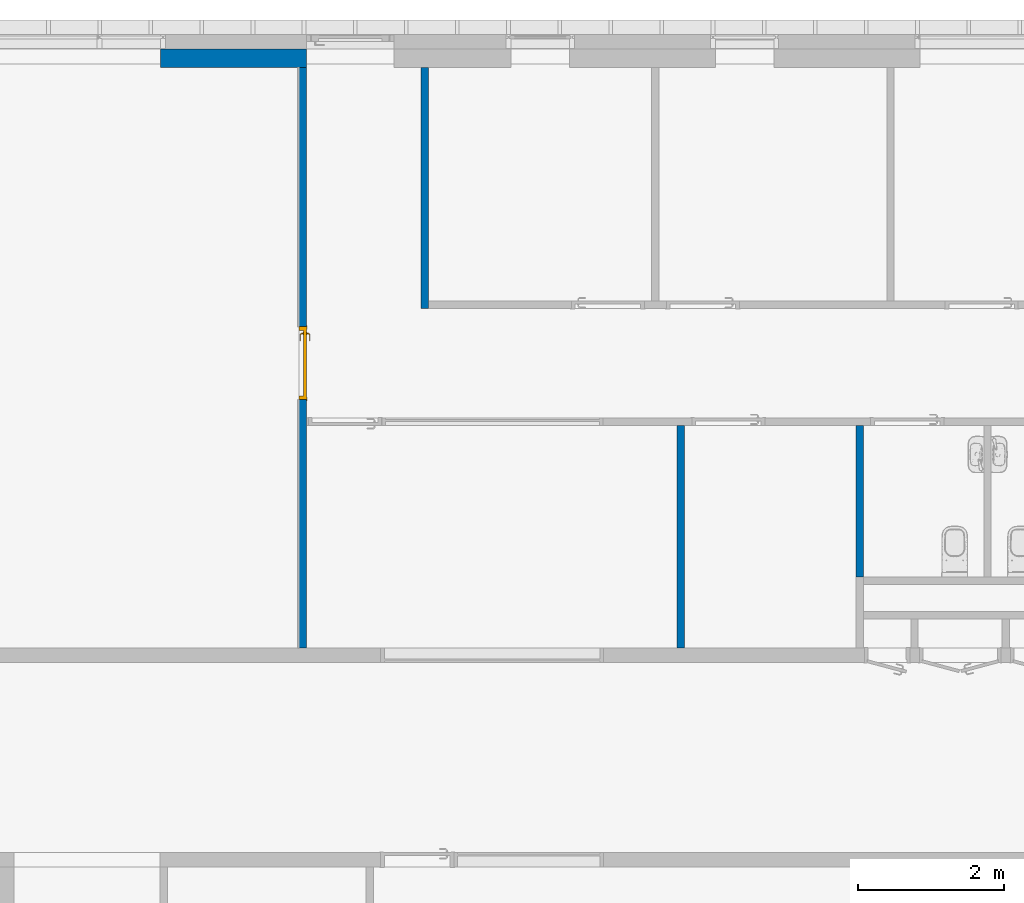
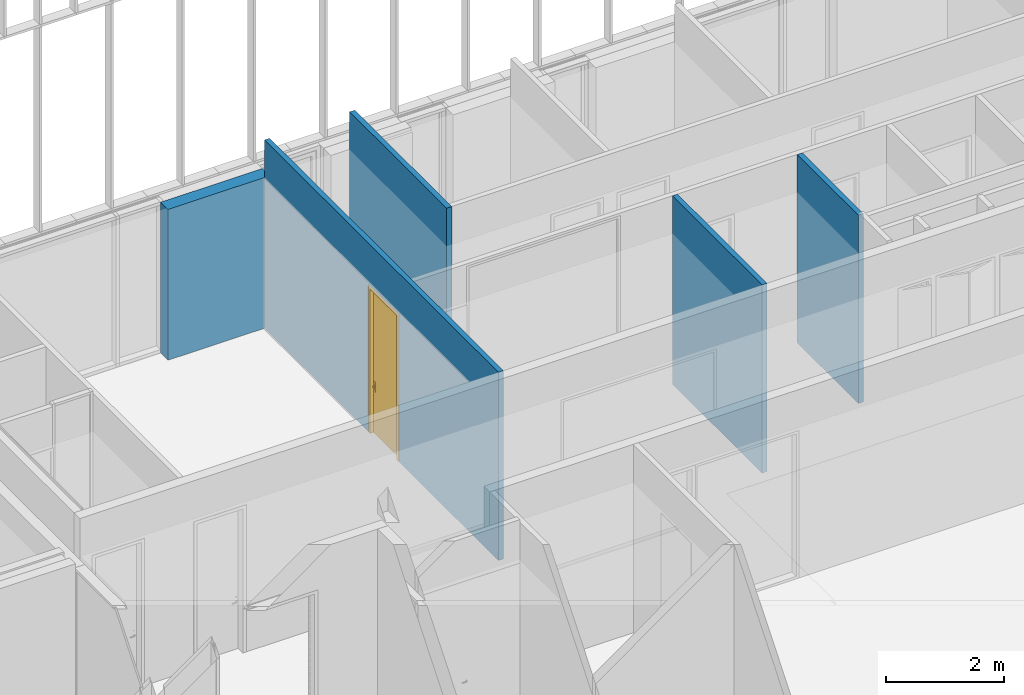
# One storey, part 138 of 240: 5 walls, 1 door, 1 opening.
"""IFC2X3 building model written with IfcOpenShell, lengths in centimetres."""

import ifcopenshell
import ifcopenshell.guid

model = None  # the IFC model being written
_history = None  # IfcOwnerHistory: only IFC2X3 demands one
_inside = {}  # id of a spatial element -> (the spatial element, [elements in it])
_under = {}  # id of a project, library or spatial element -> (it, [spatial elements below it])
_declared = {}  # id of a project -> (the project, [libraries it declares])
_typed = {}  # id of a type object -> (the type object, [elements of that type])
_made_of = {}  # id of a material, layer set ... -> (it, [elements and type objects made of it])


def new_model(schema):
    """Start an empty IFC model of exactly this schema.

    Asked for "IFC4X3", IfcOpenShell would pick the latest addendum, in which some entities
    have other attributes; the version numbers below select the first issue.
    IFC2X3 requires an IfcOwnerHistory on every rooted entity: one is made here for all.
    """
    global model, _history
    if schema == "IFC4X3":
        model = ifcopenshell.file(schema_version=(4, 3, 0, 0))
    else:
        model = ifcopenshell.file(schema=schema)
    _inside.clear()
    _under.clear()
    _declared.clear()
    _typed.clear()
    _made_of.clear()
    _history = None
    if model.schema == "IFC2X3":
        org = make("IfcOrganization", Name="unknown")
        user = make(
            "IfcPersonAndOrganization",
            ThePerson=make("IfcPerson", FamilyName="unknown"),
            TheOrganization=org,
        )
        app = make(
            "IfcApplication",
            ApplicationDeveloper=org,
            Version="unknown",
            ApplicationFullName="unknown",
            ApplicationIdentifier="unknown",
        )
        _history = make(
            "IfcOwnerHistory",
            OwningUser=user,
            OwningApplication=app,
            ChangeAction="ADDED",
            CreationDate=0,
        )
    return model


def make(cls, **values):
    """One entity of the class cls with the attributes given. An attribute that is None is left unset."""
    return model.create_entity(
        cls, **{name: value for name, value in values.items() if value is not None}
    )


def entity(cls, *values):
    """Any entity or typed value of the class cls, its attributes in the order of the schema. None: left unset."""
    e = model.create_entity(cls)
    for i, value in enumerate(values):
        if value is not None:
            e[i] = value
    return e


def rooted(cls, **values):
    """An entity with a GlobalId (a new one), such as an element, a storey or a relation."""
    return make(cls, GlobalId=ifcopenshell.guid.new(), OwnerHistory=_history, **values)


def si_unit(unit_type, name, prefix=None):
    """IfcSIUnit, for example si_unit("LENGTHUNIT", "METRE", prefix="MILLI")."""
    return make("IfcSIUnit", UnitType=unit_type, Prefix=prefix, Name=name)


def converted_unit(unit_type, name, factor, base, dimensions=None, offset=None):
    """IfcConversionBasedUnit, such as the inch: factor (a typed value) times the base unit."""
    return make(
        "IfcConversionBasedUnit"
        if offset is None
        else "IfcConversionBasedUnitWithOffset",
        ConversionOffset=offset,
        Dimensions=None
        if dimensions is None
        else entity("IfcDimensionalExponents", *dimensions),
        UnitType=unit_type,
        Name=name,
        ConversionFactor=make(
            "IfcMeasureWithUnit", ValueComponent=factor, UnitComponent=base
        ),
    )


def derived_unit(unit_type, elements):
    """IfcDerivedUnit: a product of units, each with its exponent."""
    return make(
        "IfcDerivedUnit",
        Elements=[
            make("IfcDerivedUnitElement", Unit=unit, Exponent=power)
            for unit, power in elements
        ],
        UnitType=unit_type,
    )


def assignment(units):
    """IfcUnitAssignment: the units of a project."""
    return None if units is None else make("IfcUnitAssignment", Units=units)


def point(xyz):
    """IfcCartesianPoint."""
    return None if xyz is None else make("IfcCartesianPoint", Coordinates=xyz)


def direction(xyz):
    """IfcDirection."""
    return None if xyz is None else make("IfcDirection", DirectionRatios=xyz)


def frame(location, z_axis=None, x_axis=None):
    """IfcAxis2Placement3D, a coordinate frame: its origin and axes. An axis left out is left unset."""
    return make(
        "IfcAxis2Placement3D",
        Location=point(location),
        Axis=direction(z_axis),
        RefDirection=direction(x_axis),
    )


def frame_2d(location, x_axis=None):
    """IfcAxis2Placement2D, a coordinate frame in the plane: its origin and x axis."""
    return make(
        "IfcAxis2Placement2D", Location=point(location), RefDirection=direction(x_axis)
    )


def origin():
    """The frame at (0, 0, 0) with its axes left unset."""
    return frame((0.0, 0.0, 0.0))


def place(relative_to, where):
    """IfcLocalPlacement: puts the frame where relative to a parent placement (None: the world)."""
    return make(
        "IfcLocalPlacement", PlacementRelTo=relative_to, RelativePlacement=where
    )


def context(
    kind, dimensions, precision=None, world=None, true_north=None, identifier=None
):
    """IfcGeometricRepresentationContext, for example the 3D "Model" context."""
    return make(
        "IfcGeometricRepresentationContext",
        ContextIdentifier=identifier,
        ContextType=kind,
        CoordinateSpaceDimension=dimensions,
        Precision=precision,
        WorldCoordinateSystem=world,
        TrueNorth=true_north,
    )


def subcontext(parent, identifier, kind, view, scale=None):
    """IfcGeometricRepresentationSubContext, for example "Body" below "Model"."""
    return make(
        "IfcGeometricRepresentationSubContext",
        ContextIdentifier=identifier,
        ContextType=kind,
        ParentContext=parent,
        TargetScale=scale,
        TargetView=view,
    )


def project(units=None, contexts=None):
    """IfcProject with its units and contexts."""
    return rooted(
        "IfcProject",
        Name="project",
        RepresentationContexts=contexts,
        UnitsInContext=assignment(units),
    )


def spatial(cls, under=None, at=None, **own):
    """A site, building, storey or space (cls), placed at a placement, below another one or the project."""
    s = rooted(cls, ObjectPlacement=at, **own)
    if under is not None:
        _under.setdefault(under.id(), (under, []))[1].append(s)
    return s


def polyline(points):
    """IfcPolyline through the points."""
    return make("IfcPolyline", Points=[point(p) for p in points])


def profile(cls, at=None, kind="AREA", **sizes):
    """A parametric profile (cls). Its sizes go by their IFC names, for example OverallWidth=200.0."""
    return make(cls, ProfileType=kind, Position=at, **sizes)


def rectangle(**sizes):
    """IfcRectangleProfileDef."""
    return profile("IfcRectangleProfileDef", **sizes)


def extrude(swept, where, along, depth):
    """IfcExtrudedAreaSolid: the profile swept, set in the frame where, extruded along a direction by depth."""
    return make(
        "IfcExtrudedAreaSolid",
        SweptArea=swept,
        Position=where,
        ExtrudedDirection=direction(along),
        Depth=depth,
    )


def clip(a, b, op="DIFFERENCE"):
    """IfcBooleanClippingResult: the solid a cut by the half space b."""
    return make(
        "IfcBooleanClippingResult", Operator=op, FirstOperand=a, SecondOperand=b
    )


def bounded_halfspace(plane, agree, where, boundary):
    """IfcPolygonalBoundedHalfSpace: a half space limited to a polygon's prism."""
    return make(
        "IfcPolygonalBoundedHalfSpace",
        BaseSurface=make("IfcPlane", Position=plane),
        AgreementFlag=agree,
        Position=where,
        PolygonalBoundary=boundary,
    )


def faces_of(points, faces, orient=None, outer=None):
    """IfcFace entities. A face is a list of loops; a loop is a list of indices into points, from 0.

    orient and outer hold one flag for each loop. By default every Orientation is true, the
    first loop of a face is its IfcFaceOuterBound and the others are IfcFaceBound.
    """
    made = []
    for i, loops in enumerate(faces):
        bounds = []
        for j, loop in enumerate(loops):
            is_outer = j == 0 if outer is None else outer[i][j]
            bounds.append(
                make(
                    "IfcFaceOuterBound" if is_outer else "IfcFaceBound",
                    Bound=make("IfcPolyLoop", Polygon=[points[k] for k in loop]),
                    Orientation=True if orient is None else orient[i][j],
                )
            )
        made.append(make("IfcFace", Bounds=bounds))
    return made


def faceted_brep(points, faces, orient=None, outer=None, voids=None):
    """IfcFacetedBrep: a solid bounded by flat faces; with voids (closed shells), ...WithVoids."""
    shared = [point(p) for p in points]
    hull = make("IfcClosedShell", CfsFaces=faces_of(shared, faces, orient, outer))
    if voids is None:
        return make("IfcFacetedBrep", Outer=hull)
    return make(
        "IfcFacetedBrepWithVoids",
        Outer=hull,
        Voids=[
            make(cls, CfsFaces=faces_of(shared, fs, o, b)) for cls, fs, o, b in voids
        ],
    )


def shape(context_of_items, identifier, shape_type, items):
    """IfcShapeRepresentation: the items that make up one representation, for example the "Body"."""
    return make(
        "IfcShapeRepresentation",
        ContextOfItems=context_of_items,
        RepresentationIdentifier=identifier,
        RepresentationType=shape_type,
        Items=items,
    )


def source(mapping_origin, context_of_items, identifier, shape_type, items):
    """IfcRepresentationMap: a shape defined once, which mapped items show again and again."""
    return make(
        "IfcRepresentationMap",
        MappingOrigin=mapping_origin,
        MappedRepresentation=shape(context_of_items, identifier, shape_type, items),
    )


def transform(
    local_origin,
    x_axis=None,
    y_axis=None,
    z_axis=None,
    scale=None,
    scale2=None,
    scale3=None,
    uniform=True,
):
    """IfcCartesianTransformationOperator3D, or its non-uniform kind. x_axis, y_axis, z_axis: its Axis1, 2, 3."""
    if uniform:
        return make(
            "IfcCartesianTransformationOperator3D",
            Axis1=direction(x_axis),
            Axis2=direction(y_axis),
            LocalOrigin=point(local_origin),
            Scale=scale,
            Axis3=direction(z_axis),
        )
    return make(
        "IfcCartesianTransformationOperator3DnonUniform",
        Axis1=direction(x_axis),
        Axis2=direction(y_axis),
        LocalOrigin=point(local_origin),
        Scale=scale,
        Axis3=direction(z_axis),
        Scale2=scale2,
        Scale3=scale3,
    )


def mapped(mapping_source, mapping_target):
    """IfcMappedItem: shows the shape of a source again, moved by a transform."""
    return make(
        "IfcMappedItem", MappingSource=mapping_source, MappingTarget=mapping_target
    )


def material(Name=None, Category=None):
    """IfcMaterial."""
    return make("IfcMaterial", Name=Name, Category=Category)


def material_list(materials):
    """IfcMaterialList."""
    return make("IfcMaterialList", Materials=materials)


def layer(
    of_material, thickness, ventilated=None, Name=None, Category=None, Priority=None
):
    """IfcMaterialLayer: one layer of a wall or slab, of a material (None: an air gap)."""
    return make(
        "IfcMaterialLayer",
        Material=of_material,
        LayerThickness=thickness,
        IsVentilated=ventilated,
        Name=Name,
        Category=Category,
        Priority=Priority,
    )


def layer_set(layers, Name=None):
    """IfcMaterialLayerSet."""
    return make("IfcMaterialLayerSet", MaterialLayers=layers, LayerSetName=Name)


def layer_usage(for_layer_set, set_direction, sense, offset, extent=None):
    """IfcMaterialLayerSetUsage: how a layer set lies in its element."""
    return make(
        "IfcMaterialLayerSetUsage",
        ForLayerSet=for_layer_set,
        LayerSetDirection=set_direction,
        DirectionSense=sense,
        OffsetFromReferenceLine=offset,
        ReferenceExtent=extent,
    )


def made_of(thing, what):
    """Note that an element or type object is made of a material, layer set ...; save() writes the relation."""
    if what is not None:
        _made_of.setdefault(what.id(), (what, []))[1].append(thing)
    return thing


def type_object(cls, material=None, **own):
    """A type object (cls), such as IfcWallType, which elements share."""
    return made_of(rooted(cls, **own), material)


def type_shapes(of_type, sources):
    """Give a type object the sources (RepresentationMaps) that its elements show as mapped items."""
    of_type.RepresentationMaps = sources


def element(
    cls,
    number,
    at=None,
    inside=None,
    cuts=None,
    type_object=None,
    material=None,
    context=None,
    identifier="Body",
    shape_type=None,
    held_by="IfcProductDefinitionShape",
    body=None,
    shapes=None,
    **own,
):
    """One element of the class cls, such as IfcWall. Its Tag is "e" and its number.

    at: its placement. inside: the storey or other place that contains it. cuts: it is an
    opening in that element (IfcRelVoidsElement). A single representation is given by context,
    identifier, shape_type and body (its items); several are given by shapes. held_by: the class
    of the entity that holds the representations. save() writes the other relations.
    """
    e = rooted(cls, Tag="e%d" % number, ObjectPlacement=at, **own)
    if body is not None:
        shapes = [shape(context, identifier, shape_type, body)]
    if shapes is not None:
        e.Representation = make(held_by, Representations=shapes)
    if inside is not None:
        _inside.setdefault(inside.id(), (inside, []))[1].append(e)
    if cuts is not None:
        rooted(
            "IfcRelVoidsElement", RelatingBuildingElement=cuts, RelatedOpeningElement=e
        )
    if type_object is not None:
        _typed.setdefault(type_object.id(), (type_object, []))[1].append(e)
    return made_of(e, material)


def fill(opening, filler):
    """IfcRelFillsElement: the door or window that sits in an opening."""
    return rooted(
        "IfcRelFillsElement",
        RelatingOpeningElement=opening,
        RelatedBuildingElement=filler,
    )


def aggregate(whole, parts):
    """IfcRelAggregates: a whole, such as a stair, and the parts it consists of."""
    return rooted("IfcRelAggregates", RelatingObject=whole, RelatedObjects=parts)


def save(model, path):
    """Write the relations noted so far, then the file.

    IfcRelAggregates (storeys below a building ...), IfcRelContainedInSpatialStructure (elements
    in a storey), IfcRelDefinesByType, IfcRelAssociatesMaterial and IfcRelDeclares: one each for
    every whole, place, type object, material and project.
    """
    for whole, parts in _under.values():
        aggregate(whole, parts)
    for where, things in _inside.values():
        rooted(
            "IfcRelContainedInSpatialStructure",
            RelatedElements=things,
            RelatingStructure=where,
        )
    for kind, things in _typed.values():
        rooted("IfcRelDefinesByType", RelatedObjects=things, RelatingType=kind)
    for what, things in _made_of.values():
        rooted("IfcRelAssociatesMaterial", RelatedObjects=things, RelatingMaterial=what)
    for by, libraries in _declared.values():
        rooted("IfcRelDeclares", RelatingContext=by, RelatedDefinitions=libraries)
    model.write(path)


model = new_model("IFC2X3")

# Units and contexts
model_context = context("Model", 3, precision=0.001, world=origin(), true_north=direction((6.12303176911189e-17, 1.0)))
body_context = subcontext(model_context, "Body", "Model", "MODEL_VIEW")
ifc_project = project(units=[si_unit("LENGTHUNIT", "METRE", prefix="CENTI"), si_unit("AREAUNIT", "SQUARE_METRE"), si_unit("VOLUMEUNIT", "CUBIC_METRE"), converted_unit("PLANEANGLEUNIT", "DEGREE", entity("IfcRatioMeasure", 0.0174532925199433), si_unit("PLANEANGLEUNIT", "RADIAN"), dimensions=[0, 0, 0, 0, 0, 0, 0]), si_unit("MASSUNIT", "GRAM", prefix="KILO"), derived_unit("MASSDENSITYUNIT", [(si_unit("MASSUNIT", "GRAM", prefix="KILO"), 1), (si_unit("LENGTHUNIT", "METRE"), -3)]), si_unit("TIMEUNIT", "SECOND"), si_unit("FREQUENCYUNIT", "HERTZ"), si_unit("THERMODYNAMICTEMPERATUREUNIT", "DEGREE_CELSIUS"), derived_unit("THERMALTRANSMITTANCEUNIT", [(si_unit("MASSUNIT", "GRAM", prefix="KILO"), 1), (si_unit("THERMODYNAMICTEMPERATUREUNIT", "KELVIN"), -1), (si_unit("TIMEUNIT", "SECOND"), -3)]), derived_unit("VOLUMETRICFLOWRATEUNIT", [(si_unit("LENGTHUNIT", "METRE"), 3), (si_unit("TIMEUNIT", "SECOND"), -1)]), si_unit("ELECTRICCURRENTUNIT", "AMPERE"), si_unit("ELECTRICVOLTAGEUNIT", "VOLT"), si_unit("POWERUNIT", "WATT"), si_unit("FORCEUNIT", "NEWTON", prefix="KILO"), si_unit("ILLUMINANCEUNIT", "LUX"), si_unit("LUMINOUSFLUXUNIT", "LUMEN"), si_unit("LUMINOUSINTENSITYUNIT", "CANDELA"), derived_unit("USERDEFINED", [(si_unit("MASSUNIT", "GRAM", prefix="KILO"), -1), (si_unit("LENGTHUNIT", "METRE"), -2), (si_unit("TIMEUNIT", "SECOND"), 3), (si_unit("LUMINOUSFLUXUNIT", "LUMEN"), 1)]), derived_unit("LINEARVELOCITYUNIT", [(si_unit("LENGTHUNIT", "METRE"), 1), (si_unit("TIMEUNIT", "SECOND"), -1)]), si_unit("PRESSUREUNIT", "PASCAL"), derived_unit("USERDEFINED", [(si_unit("LENGTHUNIT", "METRE"), -2), (si_unit("MASSUNIT", "GRAM", prefix="KILO"), 1), (si_unit("TIMEUNIT", "SECOND"), -2)])], contexts=[model_context])

# Site, building, storey
site_placement = place(None, frame((-2781.94577612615, 7442.24238424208, 0.0)))
site = spatial("IfcSite", under=ifc_project, at=site_placement, Name="Default", CompositionType="ELEMENT")
building_placement = place(site_placement, origin())
building = spatial("IfcBuilding", under=site, at=building_placement, CompositionType="ELEMENT")
storey_placement = place(building_placement, origin())
storey = spatial("IfcBuildingStorey", under=building, at=storey_placement, Name="N00 - COO", CompositionType="ELEMENT", Elevation=0.0)

# Walls
ifc_material_1 = material(Name="01 - Maçonnerie")
ifc_layer_1 = layer(ifc_material_1, 25.0)
ifc_layer_set_1 = layer_set([ifc_layer_1], Name="Mur de base:04 - Structure - béton - 25cm")
ifc_layer_usage_1 = layer_usage(ifc_layer_set_1, "AXIS2", "NEGATIVE", 12.5)
wall_type_1 = type_object("IfcWallType", Name="Mur de base:04 - Structure - béton - 25cm", PredefinedType="STANDARD", material=ifc_layer_set_1)
wall_1_placement = place(building_placement, frame((-7566.24987760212, -2.49999999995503, 0.0), z_axis=(0.0, 0.0, 1.0), x_axis=(-1.0, 0.0, 0.0)))
element("IfcWallStandardCase", 1, at=wall_1_placement, inside=storey, type_object=wall_type_1, material=ifc_layer_usage_1, Name="Mur de base:04 - Structure - béton - 25cm", ObjectType="Mur de base:04 - Structure - béton - 25cm", context=body_context, shape_type="SweptSolid", body=[
    extrude(rectangle(XDim=199.750000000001, YDim=25.0, at=frame_2d((99.8750000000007, 8.88178419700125e-16), x_axis=(-1.0, 0.0))), origin(), (0.0, 0.0, 1.0), 313.0),
])
ifc_material_2 = material(Name="01 - Enduit/Plâtre")
ifc_layer_2 = layer(ifc_material_2, 1.3)
ifc_material_3 = material(Name="00 - Isolant")
ifc_layer_3 = layer(ifc_material_3, 7.4)
ifc_layer_4 = layer(ifc_material_2, 1.3)
ifc_layer_set_2 = layer_set([ifc_layer_2, ifc_layer_3, ifc_layer_4], Name="Mur de base:06 - cloisons - Ba13 10cm")
ifc_layer_usage_2 = layer_usage(ifc_layer_set_2, "AXIS2", "NEGATIVE", 5.0)
wall_type_2 = type_object("IfcWallType", Name="Mur de base:06 - cloisons - Ba13 10cm", PredefinedType="STANDARD", material=ifc_layer_set_2)
wall_2_placement = place(building_placement, frame((-7404.24987760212, -345.0, 0.0), z_axis=(0.0, 0.0, 1.0), x_axis=(0.0, 1.0, 0.0)))
element("IfcWallStandardCase", 2, at=wall_2_placement, inside=storey, type_object=wall_type_2, material=ifc_layer_usage_2, Name="Mur de base:06 - cloisons - Ba13 10cm", ObjectType="Mur de base:06 - cloisons - Ba13 10cm", context=body_context, shape_type="Clipping", body=[
    clip(extrude(rectangle(XDim=330.0, YDim=9.99999999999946, at=frame_2d((165.0, 2.08721928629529e-14), x_axis=(-1.0, 0.0))), origin(), (0.0, 0.0, 1.0), 391.0), bounded_halfspace(frame((0.0, -5.0, 391.0), z_axis=(0.0, 0.0, -1.0), x_axis=(1.0, 0.0, 0.0)), True, frame((0.0, -5.0, 391.0)), polyline([(0.0, 0.0), (10.0, 0.0), (330.0, 0.0), (330.0, 10.0), (0.0, 10.0), (0.0, 0.0)]))),
])

# Wall, opening, door
ifc_layer_usage_3 = layer_usage(ifc_layer_set_2, "AXIS2", "NEGATIVE", 5.0)
wall_3_placement = place(building_placement, frame((-7571.24987760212, -15.0, 0.0), z_axis=(0.0, 0.0, 1.0), x_axis=(0.0, -1.0, 0.0)))
wall_3 = element("IfcWallStandardCase", 3, at=wall_3_placement, inside=storey, type_object=wall_type_2, material=ifc_layer_usage_3, Name="Mur de base:06 - cloisons - Ba13 10cm", ObjectType="Mur de base:06 - cloisons - Ba13 10cm", context=body_context, shape_type="Clipping", body=[
    clip(extrude(rectangle(XDim=795.048500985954, YDim=9.99999999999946, at=frame_2d((397.524250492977, -3.5527136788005e-15), x_axis=(-1.0, 0.0))), origin(), (0.0, 0.0, 1.0), 391.0), bounded_halfspace(frame((0.0, -5.0, 391.0), z_axis=(0.0, 0.0, -1.0), x_axis=(-1.0, 0.0, 0.0)), True, frame((0.0, -5.0, 391.0)), polyline([(0.0, 0.0), (795.048500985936, 0.0), (795.048500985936, 10.0), (490.0, 10.0), (480.0, 10.0), (0.0, 10.0), (0.0, 0.0)]))),
])
opening_placement = place(wall_3_placement, frame((355.0, -5.0, 0.0)))
opening = element("IfcOpeningElement", 4, at=opening_placement, cuts=wall_3, Name="Int. Simple:PV (0.93m x 3.00m):1", ObjectType="Opening", context=body_context, shape_type="SweptSolid", body=[
    extrude(rectangle(XDim=304.500000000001, YDim=99.9999999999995, at=frame_2d((152.250000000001, 49.9999999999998), x_axis=(1.0, 0.0))), frame((0.0, 0.0, 0.0), z_axis=(0.0, 1.0, 0.0), x_axis=(0.0, 0.0, 1.0)), (0.0, 0.0, 1.0), 10.0),
])
ifc_material_4 = material(Name="Finition Peinture - Blanc satiné")
ifc_material_5 = material(Name="Bois - Panneau de porte")
ifc_material_6 = material(Name="Bois - Cadre de porte")
ifc_material_list_1 = material_list([ifc_material_4, ifc_material_5, ifc_material_6])
ifc_material_list_2 = material_list([ifc_material_4, ifc_material_5, ifc_material_6])
door_style = type_object("IfcDoorStyle", Name="PV (0.93m x 3.00m)", ConstructionType="NOTDEFINED", OperationType="SINGLE_SWING_RIGHT", ParameterTakesPrecedence=False, Sizeable=False, material=ifc_material_list_2)
shared_shape = source(origin(), body_context, "Body", "Brep", [
    faceted_brep([(99.5000000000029, -0.500000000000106, 87.0), (99.5000000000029, -0.500000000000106, 108.0), (98.535276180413, -0.500000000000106, 108.399601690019), (97.5000000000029, -0.500000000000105, 108.535898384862), (96.4647238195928, -0.500000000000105, 108.399601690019), (95.500000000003, -0.500000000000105, 108.0), (95.5000000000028, -0.500000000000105, 87.0), (96.4647238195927, -0.500000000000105, 86.6003983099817), (97.5000000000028, -0.500000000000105, 86.464101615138), (98.5352761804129, -0.500000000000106, 86.6003983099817), (99.5000000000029, 0.0, 108.0), (99.5000000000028, 0.0, 87.0), (98.5352761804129, 0.0, 86.6003983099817), (97.5000000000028, 0.0, 86.464101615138), (96.4647238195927, 0.0, 86.6003983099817), (95.5000000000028, 0.0, 87.0), (95.5000000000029, 0.0, 108.0), (96.4647238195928, 0.0, 108.399601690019), (97.5000000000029, 0.0, 108.535898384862), (98.535276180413, 0.0, 108.399601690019)], [[[0, 1, 2, 3, 4, 5, 6, 7, 8, 9]], [[10, 11, 12, 13, 14, 15, 16, 17, 18, 19]], [[9, 12, 11, 0]], [[8, 13, 12, 9]], [[7, 14, 13, 8]], [[7, 6, 15, 14]], [[15, 6, 5, 16]], [[4, 17, 16, 5]], [[3, 18, 17, 4]], [[2, 19, 18, 3]], [[2, 1, 10, 19]], [[11, 10, 1, 0]]]),
    faceted_brep([(99.5000000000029, 4.0, 87.0), (99.5000000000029, 4.0, 108.0), (98.535276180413, 4.0, 108.399601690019), (97.5000000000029, 4.0, 108.535898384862), (96.4647238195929, 4.0, 108.399601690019), (95.500000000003, 4.0, 108.0), (95.5000000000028, 4.0, 87.0), (96.4647238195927, 4.0, 86.6003983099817), (97.5000000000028, 4.0, 86.464101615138), (98.5352761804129, 4.0, 86.6003983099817), (97.5000000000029, 4.49999999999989, 108.535898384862), (98.535276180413, 4.49999999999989, 108.399601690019), (99.5000000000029, 4.49999999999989, 108.0), (99.5000000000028, 4.49999999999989, 87.0), (98.5352761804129, 4.49999999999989, 86.6003983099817), (97.5000000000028, 4.49999999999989, 86.464101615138), (96.4647238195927, 4.49999999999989, 86.6003983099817), (95.5000000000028, 4.49999999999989, 87.0), (95.500000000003, 4.49999999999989, 108.0), (96.4647238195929, 4.49999999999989, 108.399601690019)], [[[0, 1, 2, 3, 4, 5, 6, 7, 8, 9]], [[10, 11, 12, 13, 14, 15, 16, 17, 18, 19]], [[4, 19, 18, 5]], [[3, 10, 19, 4]], [[2, 11, 10, 3]], [[2, 1, 12, 11]], [[13, 12, 1, 0]], [[9, 14, 13, 0]], [[8, 15, 14, 9]], [[7, 16, 15, 8]], [[7, 6, 17, 16]], [[17, 6, 5, 18]]]),
    faceted_brep([(97.2974701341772, -0.50000000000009, 100.778044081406), (97.7025298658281, -0.500000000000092, 100.778044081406), (98.1000000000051, -0.500000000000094, 100.699999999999), (98.100000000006, -0.500000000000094, 99.2999999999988), (97.7025298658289, -0.500000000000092, 99.221955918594), (97.297470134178, -0.50000000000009, 99.2219559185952), (96.9000000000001, -0.500000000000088, 99.3000000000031), (96.9000000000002, -0.500000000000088, 100.7), (97.7025298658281, -3.10045754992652, 100.778044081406), (98.1000000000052, -3.26509507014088, 100.7), (97.2974701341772, -2.93267631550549, 100.778044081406), (95.9298602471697, -4.30028620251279, 100.778044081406), (96.0976414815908, -4.70534593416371, 100.778044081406), (96.9000000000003, -2.76803879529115, 100.7), (96.9000000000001, -2.76803879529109, 99.3000000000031), (97.297470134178, -2.93267631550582, 99.2219559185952), (97.7025298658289, -3.10045754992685, 99.221955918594), (96.0976414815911, -4.70534593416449, 99.221955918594), (95.9298602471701, -4.30028620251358, 99.2219559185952), (98.100000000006, -3.26509507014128, 99.2999999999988), (96.2622790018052, -5.10281606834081, 100.7), (95.7652227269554, -3.90281606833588, 100.7), (95.7652227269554, -3.90281606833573, 99.3000000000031), (96.2622790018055, -5.10281606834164, 99.2999999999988), (87.4981359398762, -5.10281606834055, 100.7), (87.4981359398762, -4.70534593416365, 100.778044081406), (87.4981359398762, -4.30028620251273, 100.778044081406), (87.4981359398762, -3.90281606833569, 100.699999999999), (87.4981359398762, -3.90281606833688, 99.3000000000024), (87.4981359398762, -4.30028620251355, 99.2219559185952), (87.4981359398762, -4.70534593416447, 99.221955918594), (87.4981359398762, -5.10281606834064, 99.2999999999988), (91.7139980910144, -4.5028160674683, 100.78786867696), (92.2692302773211, -5.1028160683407, 100.7), (91.6316793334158, -3.9028160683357, 100.7), (91.631679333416, -3.9028160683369, 99.3000000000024), (91.7139981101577, -4.50281607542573, 99.2121313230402), (92.2692310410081, -5.10281606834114, 99.2999999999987)], [[[0, 1, 2, 3, 4, 5, 6, 7]], [[2, 1, 8, 9]], [[1, 0, 10, 11, 12, 8]], [[0, 7, 13, 10]], [[14, 13, 7, 6]], [[5, 15, 14, 6]], [[5, 4, 16, 17, 18, 15]], [[3, 19, 16, 4]], [[9, 19, 3, 2]], [[9, 8, 12, 20]], [[10, 13, 21, 11]], [[22, 21, 13, 14]], [[14, 15, 18, 22]], [[16, 19, 23, 17]], [[20, 23, 19, 9]], [[24, 25, 26, 27, 28, 29, 30, 31]], [[32, 25, 33]], [[33, 25, 24]], [[33, 20, 12]], [[11, 34, 32]], [[34, 11, 21]], [[27, 26, 34]], [[32, 26, 25]], [[32, 34, 26]], [[32, 33, 12]], [[11, 32, 12]], [[21, 22, 35, 28, 27, 34]], [[36, 29, 35]], [[30, 36, 37]], [[18, 35, 22]], [[29, 28, 35]], [[30, 37, 31]], [[37, 17, 23]], [[36, 17, 37]], [[36, 18, 17]], [[36, 35, 18]], [[29, 36, 30]], [[23, 20, 33, 24, 31, 37]]]),
    faceted_brep([(97.2974701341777, 4.49999999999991, 99.2219559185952), (97.7025298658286, 4.49999999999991, 99.221955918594), (98.1000000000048, 4.4999999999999, 99.2999999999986), (98.1000000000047, 4.4999999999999, 100.7), (97.7025298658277, 4.49999999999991, 100.778044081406), (97.2974701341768, 4.49999999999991, 100.778044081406), (96.8999999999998, 4.49999999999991, 100.7), (96.900000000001, 4.49999999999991, 99.3000000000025), (96.8999999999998, 6.7485204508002, 100.7), (96.8999999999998, 6.74852045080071, 99.3000000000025), (97.2974701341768, 6.91315797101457, 100.778044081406), (97.7025298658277, 7.0809392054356, 100.778044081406), (96.0838906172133, 8.69957845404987, 100.778044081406), (95.9161093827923, 8.29451872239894, 100.778044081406), (98.1000000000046, 7.24557672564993, 100.7), (98.1000000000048, 7.24557672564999, 99.2999999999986), (97.7025298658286, 7.08093920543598, 99.221955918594), (97.2974701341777, 6.91315797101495, 99.2219559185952), (95.9161093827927, 8.29451872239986, 99.2219559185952), (96.0838906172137, 8.69957845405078, 99.221955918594), (95.751471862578, 7.89704858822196, 100.7), (95.7514718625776, 7.89704858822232, 99.3000000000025), (96.2485281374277, 9.09704858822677, 100.7), (96.2485281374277, 9.09704858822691, 99.2999999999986), (87.4954216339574, 8.29451872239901, 100.778044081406), (87.4954216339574, 8.69957845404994, 100.778044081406), (87.4954216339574, 9.09704858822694, 100.7), (87.4954216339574, 9.09704858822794, 99.2999999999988), (87.4954216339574, 8.6995784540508, 99.221955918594), (87.4954216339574, 8.29451872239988, 99.2219559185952), (87.4954216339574, 7.89704858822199, 99.3000000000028), (87.4954216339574, 7.89704858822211, 100.7), (91.6234467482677, 7.89704858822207, 100.7), (91.6234479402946, 7.89704858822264, 99.3000000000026), (91.7057655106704, 8.49704858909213, 100.78786867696), (92.255479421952, 9.09704858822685, 100.7), (92.2554795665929, 9.09704858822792, 99.2999999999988), (91.7057654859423, 8.49704858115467, 99.2121313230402)], [[[0, 1, 2, 3, 4, 5, 6, 7]], [[8, 9, 7, 6]], [[5, 10, 8, 6]], [[5, 4, 11, 12, 13, 10]], [[3, 14, 11, 4]], [[14, 3, 2, 15]], [[2, 1, 16, 15]], [[1, 0, 17, 18, 19, 16]], [[0, 7, 9, 17]], [[20, 21, 9, 8]], [[8, 10, 13, 20]], [[14, 22, 12, 11]], [[23, 22, 14, 15]], [[15, 16, 19, 23]], [[17, 9, 21, 18]], [[24, 25, 26, 27, 28, 29, 30, 31]], [[21, 20, 32, 31, 30, 33]], [[34, 24, 32]], [[25, 34, 35]], [[13, 32, 20]], [[24, 31, 32]], [[25, 35, 26]], [[35, 12, 22]], [[34, 12, 35]], [[34, 13, 12]], [[34, 32, 13]], [[24, 34, 25]], [[22, 23, 36, 27, 26, 35]], [[37, 28, 36]], [[36, 28, 27]], [[36, 23, 19]], [[18, 33, 37]], [[33, 18, 21]], [[30, 29, 33]], [[37, 29, 28]], [[37, 33, 29]], [[37, 36, 19]], [[18, 37, 19]]]),
    faceted_brep([(103.500000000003, 4.0, 301.0), (103.500000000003, 4.0, 0.0), (10.5000000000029, 4.0, 0.0), (10.5000000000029, 4.0, 301.0), (103.500000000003, 0.0, 301.0), (10.5000000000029, 0.0, 301.0), (10.5000000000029, 0.0, 0.0), (103.500000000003, 0.0, 0.0)], [[[0, 1, 2, 3]], [[4, 5, 6, 7]], [[3, 5, 4, 0]], [[2, 6, 5, 3]], [[1, 7, 6, 2]], [[0, 4, 7, 1]]]),
    faceted_brep([(107.0, 10.0, 0.0), (107.0, 0.0, 0.0), (108.500000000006, 0.0, 0.0), (108.500000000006, -0.500000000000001, 0.0), (103.500000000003, -0.500000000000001, 0.0), (103.500000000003, 4.0, 0.0), (102.0, 4.0, 0.0), (102.0, 10.5000000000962, 0.0), (108.500000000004, 10.5000000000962, 0.0), (108.500000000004, 10.0, 0.0), (108.500000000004, 10.0, 306.0), (5.50000000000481, 10.0, 306.0), (5.50000000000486, 10.0, 0.0), (7.0, 10.0, 0.0), (7.0, 10.0, 304.500000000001), (107.0, 10.0, 304.500000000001), (108.500000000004, 10.5000000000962, 306.0), (102.0, 10.5000000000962, 299.5), (12.0, 10.5000000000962, 299.5), (12.0, 10.5000000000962, 0.0), (5.50000000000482, 10.5000000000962, 0.0), (5.50000000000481, 10.5000000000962, 306.0), (102.0, 4.0, 299.5), (103.500000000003, 4.0, 301.0), (10.5000000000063, 4.0, 301.0), (10.5000000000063, 4.0, 0.0), (12.0, 4.0, 0.0), (12.0, 4.0, 299.5), (103.500000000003, -0.500000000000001, 301.0), (108.500000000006, -0.500000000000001, 306.0), (5.5000000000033, -0.500000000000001, 306.0), (5.50000000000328, -0.500000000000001, 0.0), (10.5000000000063, -0.500000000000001, 0.0), (10.5000000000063, -0.500000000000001, 301.0), (108.500000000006, 0.0, 306.0), (107.0, 0.0, 304.500000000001), (7.0, 0.0, 304.500000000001), (7.0, 0.0, 0.0), (5.5000000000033, 0.0, 0.0), (5.50000000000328, 0.0, 306.0)], [[[0, 1, 2, 3, 4, 5, 6, 7, 8, 9]], [[9, 10, 11, 12, 13, 14, 15, 0]], [[8, 16, 10, 9]], [[7, 17, 18, 19, 20, 21, 16, 8]], [[7, 6, 22, 17]], [[5, 23, 24, 25, 26, 27, 22, 6]], [[5, 4, 28, 23]], [[3, 29, 30, 31, 32, 33, 28, 4]], [[2, 34, 29, 3]], [[1, 35, 36, 37, 38, 39, 34, 2]], [[0, 15, 35, 1]], [[14, 13, 37, 36]], [[13, 12, 20, 19, 26, 25, 32, 31, 38, 37]], [[21, 20, 12, 11]], [[27, 26, 19, 18]], [[33, 32, 25, 24]], [[39, 38, 31, 30]], [[15, 14, 36, 35]], [[16, 21, 11, 10]], [[22, 27, 18, 17]], [[28, 33, 24, 23]], [[34, 39, 30, 29]]]),
])
type_shapes(door_style, [shared_shape])
door_placement = place(opening_placement, frame((107.0, 10.0, 0.0), z_axis=(0.0, 0.0, 1.0), x_axis=(-1.0, 0.0, 0.0)))
door = element("IfcDoor", 5, at=door_placement, inside=storey, type_object=door_style, material=ifc_material_list_1, Name="Int. Simple:PV (0.93m x 3.00m)", ObjectType="Int. Simple:PV (0.93m x 3.00m)", OverallHeight=304.500000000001, OverallWidth=99.9999999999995, context=body_context, shape_type="MappedRepresentation", body=[
    mapped(shared_shape, transform((0.0, 0.0, 0.0), scale=1.0)),
])
fill(opening, door)

# Walls
ifc_layer_usage_4 = layer_usage(ifc_layer_set_2, "AXIS2", "NEGATIVE", 5.0)
wall_4_placement = place(building_placement, frame((-7053.49987760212, -505.0, 0.0), z_axis=(0.0, 0.0, 1.0), x_axis=(0.0, -1.0, 0.0)))
element("IfcWallStandardCase", 6, at=wall_4_placement, inside=storey, type_object=wall_type_2, material=ifc_layer_usage_4, Name="Mur de base:06 - cloisons - Ba13 10cm", ObjectType="Mur de base:06 - cloisons - Ba13 10cm", context=body_context, shape_type="Clipping", body=[
    clip(extrude(rectangle(XDim=305.048500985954, YDim=9.99999999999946, at=frame_2d((152.524250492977, 7.54951656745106e-15), x_axis=(-1.0, 0.0))), origin(), (0.0, 0.0, 1.0), 391.0), bounded_halfspace(frame((0.0, -5.0, 391.0), z_axis=(0.0, 0.0, -1.0), x_axis=(-1.0, 0.0, 0.0)), True, frame((0.0, -5.0, 391.0)), polyline([(0.0, 0.0), (305.048500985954, 0.0), (305.048500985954, 10.0), (0.0, 10.0), (0.0, 0.0)]))),
])
ifc_layer_usage_5 = layer_usage(ifc_layer_set_2, "AXIS2", "NEGATIVE", 5.0)
wall_5_placement = place(building_placement, frame((-6808.49987760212, -713.0, 0.0), z_axis=(0.0, 0.0, 1.0), x_axis=(0.0, 1.0, 0.0)))
element("IfcWallStandardCase", 7, at=wall_5_placement, inside=storey, type_object=wall_type_2, material=ifc_layer_usage_5, Name="Mur de base:06 - cloisons - Ba13 10cm", ObjectType="Mur de base:06 - cloisons - Ba13 10cm", context=body_context, shape_type="Clipping", body=[
    clip(extrude(rectangle(XDim=208.0, YDim=9.99999999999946, at=frame_2d((104.0, 0.0), x_axis=(-1.0, 0.0))), origin(), (0.0, 0.0, 1.0), 391.0), bounded_halfspace(frame((0.0, -5.0, 391.0), z_axis=(0.0, 0.0, -1.0), x_axis=(1.0, 0.0, 0.0)), True, frame((0.0, -5.0, 391.0)), polyline([(0.0, 0.0), (208.0, 0.0), (208.0, 10.0), (0.0, 10.0), (0.0, 0.0)]))),
])

save(model, "model.ifc")
